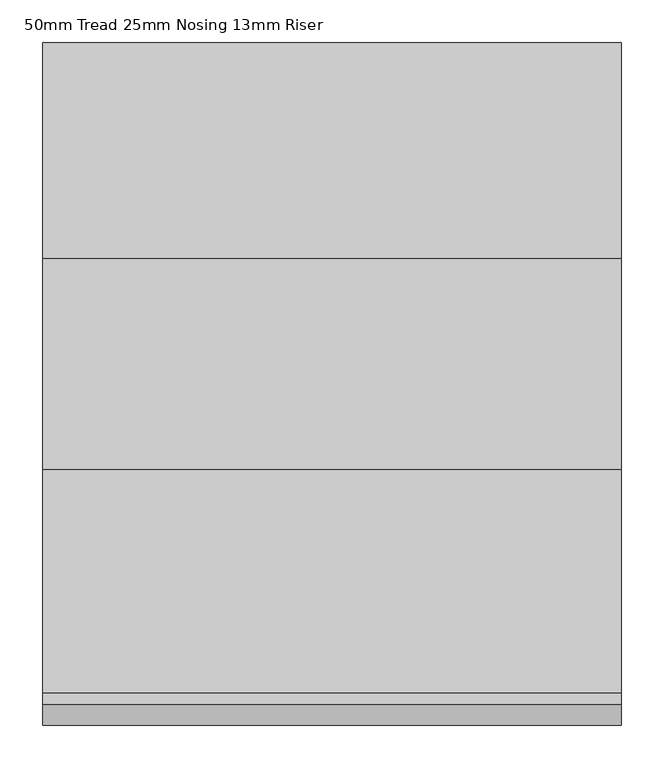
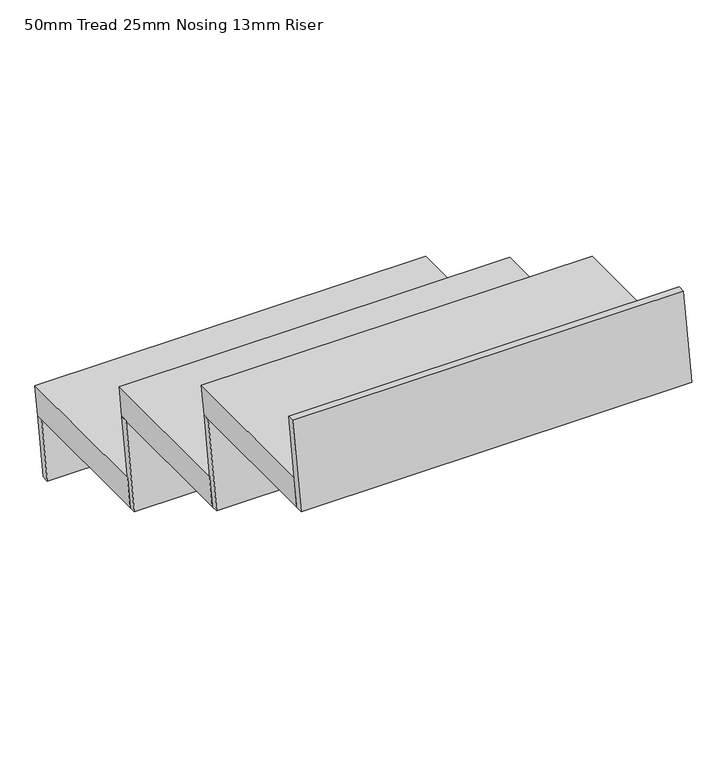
"""IFC4 building model written with IfcOpenShell, lengths in millimetres: stair flight geometry, 50mm Tread 25mm Nosing 13mm Riser."""

from ifc_helpers import new_model, si_unit, frame, origin, place, context, project, spatial, polyline, outline, extrude, source, transform, mapped, element, save


def stair_flight_50mm_tread_25mm_nosing_13mm_riser_780a3091(model_context):
    return source(origin(), model_context, "Body", "SweptSolid", [
        extrude(outline(polyline([(12713.1, -1981.2), (12992.1, -1981.2), (12983.8979003, -2031.2), (12704.8979003, -2031.2), (12713.1, -1981.2)])), frame((1270.0, 0.0, 0.0), z_axis=(1.0, 0.0, 0.0), x_axis=(0.0, 1.0, 0.0)), (0.0, 0.0, 1.0), 679.45),
        extrude(outline(polyline([(12983.8979003, -2031.2), (12967.1, -2133.6), (12954.4329304, -2133.6), (12971.2308307, -2031.2), (12983.8979003, -2031.2)])), frame((1270.0, 0.0, 0.0), z_axis=(1.0, 0.0, 0.0), x_axis=(0.0, 1.0, 0.0)), (0.0, 0.0, 1.0), 679.45),
        extrude(outline(polyline([(12729.8979003, -1878.8), (12704.8979003, -2031.2), (12692.2308307, -2031.2), (12717.2308307, -1878.8), (12729.8979003, -1878.8)])), frame((1270.0, 0.0, 0.0), z_axis=(1.0, 0.0, 0.0), x_axis=(0.0, 1.0, 0.0)), (0.0, 0.0, 1.0), 679.45),
        extrude(outline(polyline([(12465.45, -1828.8), (12738.1, -1828.8), (12729.8979003, -1878.8), (12457.2479003, -1878.8), (12465.45, -1828.8)])), frame((1270.0, 0.0, 0.0), z_axis=(1.0, 0.0, 0.0), x_axis=(0.0, 1.0, 0.0)), (0.0, 0.0, 1.0), 679.45),
        extrude(outline(polyline([(12482.2479003, -1726.4), (12457.2479003, -1878.8), (12444.5808307, -1878.8), (12469.5808307, -1726.4), (12482.2479003, -1726.4)])), frame((1270.0, 0.0, 0.0), z_axis=(1.0, 0.0, 0.0), x_axis=(0.0, 1.0, 0.0)), (0.0, 0.0, 1.0), 679.45),
        extrude(outline(polyline([(12228.2479003, -1574.0), (12203.2479003, -1726.4), (12190.5808307, -1726.4), (12215.5808307, -1574.0), (12228.2479003, -1574.0)])), frame((1270.0, 0.0, 0.0), z_axis=(1.0, 0.0, 0.0), x_axis=(0.0, 1.0, 0.0)), (0.0, 0.0, 1.0), 679.45),
        extrude(outline(polyline([(12211.45, -1676.4), (12490.45, -1676.4), (12482.2479003, -1726.4), (12203.2479003, -1726.4), (12211.45, -1676.4)])), frame((1270.0, 0.0, 0.0), z_axis=(1.0, 0.0, 0.0), x_axis=(0.0, 1.0, 0.0)), (0.0, 0.0, 1.0), 679.45),
    ])


if __name__ == "__main__":
    model = new_model("IFC4")
    model_context = context("Model", 3, world=origin())
    ifc_project = project(units=[si_unit("LENGTHUNIT", "METRE", prefix="MILLI")], contexts=[model_context])
    site = spatial("IfcSite", under=ifc_project)
    building = spatial("IfcBuilding", under=site)
    placement = place(None, origin())
    stair_flight_50mm_tread_25mm_nosing_13mm_riser_shape = stair_flight_50mm_tread_25mm_nosing_13mm_riser_780a3091(model_context)
    element("IfcStairFlight", 1, ObjectType="50mm Tread 25mm Nosing 13mm Riser", at=placement, inside=building, context=model_context, shape_type="MappedRepresentation", body=[
        mapped(stair_flight_50mm_tread_25mm_nosing_13mm_riser_shape, transform((0.0, 0.0, 0.0), x_axis=(1.0, 0.0, 0.0), y_axis=(0.0, 1.0, 0.0), z_axis=(0.0, 0.0, 1.0))),
    ])
    save(model, "model.ifc")
